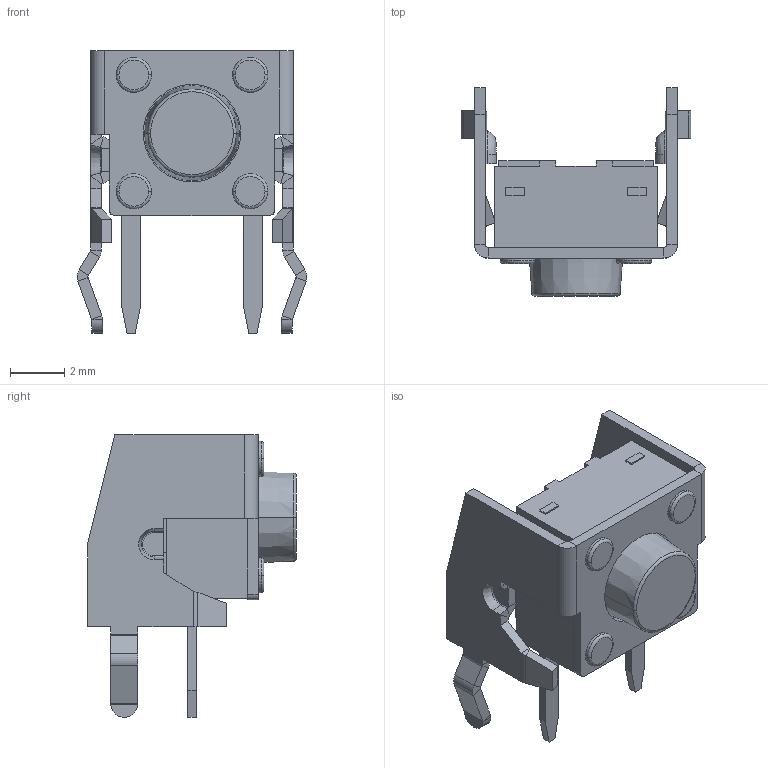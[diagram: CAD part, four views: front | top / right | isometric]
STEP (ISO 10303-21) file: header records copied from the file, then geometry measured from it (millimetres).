
FILE_DESCRIPTION((''),'2;1');
FILE_NAME('JQC6060-C0501-01G-104_ASM','2026-05-25T14:51:31',('Admin'),(''),'CREO PARAMETRIC BY PTC INC, 2019224','CREO PARAMETRIC BY PTC INC, 2019224','');
FILE_SCHEMA(('AUTOMOTIVE_DESIGN { 1 0 10303 214 1 1 1 1 }'));
Length unit declared in the file: millimetre
Products named in the file (3): JQC6060-C0501-01G-104_01; JQC6060-C0501-01G-104_02; JQC6060-C0501-01G-104_ASM
Assembly tree (2 placements, depth 2):
  JQC6060-C0501-01G-104_ASM
    JQC6060-C0501-01G-104_01
    JQC6060-C0501-01G-104_02
Bounding box: 8.49 x 7.7 x 10.45 mm (x, y, z)
Volume: 169.7 mm3; surface area: 439.3 mm2
Topology: 2 solids, 2 shells, 239 faces, 558 edges, 342 vertices
Faces by surface type: plane 167, cylinder 50, torus 12, cone 6, bspline 4
Entity records: 7869 total; most frequent: CARTESIAN_POINT 1309, DIRECTION 1174, ORIENTED_EDGE 1104, EDGE_CURVE 552, VECTOR 414, LINE 414, AXIS2_PLACEMENT_3D 380, VERTEX_POINT 330
